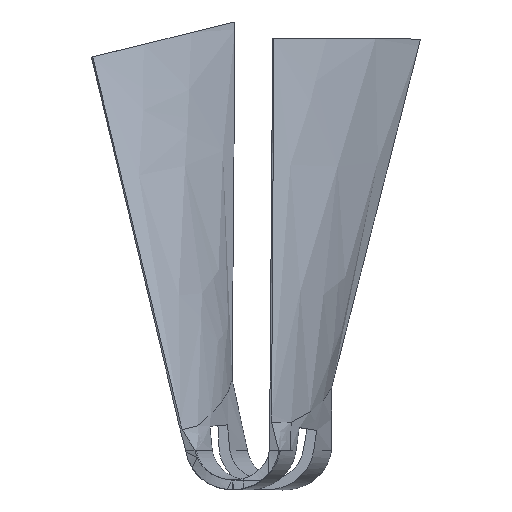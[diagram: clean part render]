
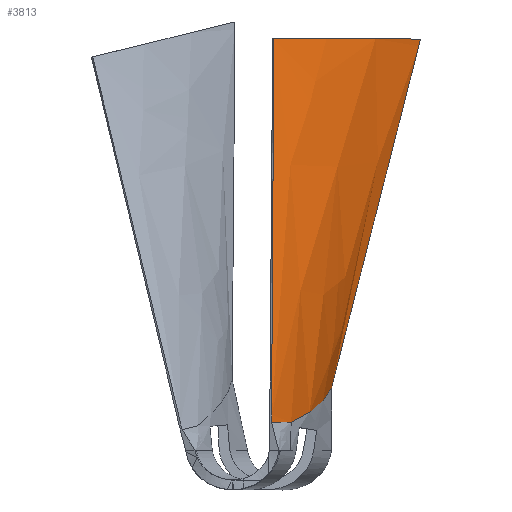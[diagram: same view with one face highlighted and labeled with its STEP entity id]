
A CAD part, top view. The second image highlights one B-rep face of the part: STEP entity #3813.
In plain terms, the highlighted free-form (B-spline) face has degree [3, 3] with [5, 4] control points.
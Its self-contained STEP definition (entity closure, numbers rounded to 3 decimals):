
#1255=CARTESIAN_POINT('Vertex',(21.785,107.16,-25.419)) ;
#1259=CARTESIAN_POINT('Control Point',(11.136,98.006,4.493)) ;
#1260=CARTESIAN_POINT('Control Point',(12.812,98.736,1.72)) ;
#1261=CARTESIAN_POINT('Control Point',(14.322,99.524,-1.135)) ;
#1262=CARTESIAN_POINT('Control Point',(15.674,100.365,-4.057)) ;
#1263=CARTESIAN_POINT('Control Point',(18.073,102.139,-10.011)) ;
#1264=CARTESIAN_POINT('Control Point',(19.885,104.07,-16.116)) ;
#1265=CARTESIAN_POINT('Control Point',(20.65,105.071,-19.2)) ;
#1266=CARTESIAN_POINT('Control Point',(21.281,106.102,-22.304)) ;
#1267=CARTESIAN_POINT('Control Point',(21.785,107.16,-25.419)) ;
#1268=CARTESIAN_POINT('Vertex',(11.123,98.,4.513)) ;
#1722=CARTESIAN_POINT('Vertex',(5.959,98.,11.839)) ;
#1746=CARTESIAN_POINT('Control Point',(5.959,98.,11.839)) ;
#1747=CARTESIAN_POINT('Control Point',(7.102,98.,10.455)) ;
#1748=CARTESIAN_POINT('Control Point',(8.191,98.,9.028)) ;
#1749=CARTESIAN_POINT('Control Point',(9.226,98.,7.56)) ;
#1750=CARTESIAN_POINT('Control Point',(10.204,98.,6.054)) ;
#1751=CARTESIAN_POINT('Control Point',(11.123,98.,4.513)) ;
#3733=CARTESIAN_POINT('Control Point',(45.201,199.002,-21.416)) ;
#3734=CARTESIAN_POINT('Control Point',(36.617,165.334,-22.884)) ;
#3735=CARTESIAN_POINT('Control Point',(28.033,131.667,-24.351)) ;
#3736=CARTESIAN_POINT('Control Point',(19.449,98.,-25.818)) ;
#3737=CARTESIAN_POINT('Control Point',(39.566,199.002,-15.691)) ;
#3738=CARTESIAN_POINT('Control Point',(32.866,165.334,-16.799)) ;
#3739=CARTESIAN_POINT('Control Point',(26.166,131.667,-17.908)) ;
#3740=CARTESIAN_POINT('Control Point',(19.466,98.,-19.016)) ;
#3741=CARTESIAN_POINT('Control Point',(27.384,199.002,-5.14)) ;
#3742=CARTESIAN_POINT('Control Point',(23.962,165.334,-5.229)) ;
#3743=CARTESIAN_POINT('Control Point',(20.541,131.667,-5.318)) ;
#3744=CARTESIAN_POINT('Control Point',(17.119,98.,-5.408)) ;
#3745=CARTESIAN_POINT('Control Point',(13.702,199.002,3.377)) ;
#3746=CARTESIAN_POINT('Control Point',(12.565,165.334,4.45)) ;
#3747=CARTESIAN_POINT('Control Point',(11.428,131.667,5.522)) ;
#3748=CARTESIAN_POINT('Control Point',(10.291,98.,6.595)) ;
#3749=CARTESIAN_POINT('Control Point',(6.567,199.002,7.068)) ;
#3750=CARTESIAN_POINT('Control Point',(6.364,165.334,8.658)) ;
#3751=CARTESIAN_POINT('Control Point',(6.162,131.667,10.248)) ;
#3752=CARTESIAN_POINT('Control Point',(5.959,98.,11.839)) ;
#3754=CARTESIAN_POINT('Control Point',(44.718,197.106,-21.499)) ;
#3755=CARTESIAN_POINT('Control Point',(40.131,179.117,-22.283)) ;
#3756=CARTESIAN_POINT('Control Point',(35.545,161.127,-23.067)) ;
#3757=CARTESIAN_POINT('Control Point',(30.958,143.138,-23.851)) ;
#3758=CARTESIAN_POINT('Control Point',(26.372,125.149,-24.635)) ;
#3759=CARTESIAN_POINT('Control Point',(21.785,107.16,-25.419)) ;
#3760=CARTESIAN_POINT('Vertex',(44.719,197.106,-21.499)) ;
#3764=CARTESIAN_POINT('Control Point',(45.201,199.002,-21.416)) ;
#3765=CARTESIAN_POINT('Control Point',(45.105,198.623,-21.433)) ;
#3766=CARTESIAN_POINT('Control Point',(45.008,198.243,-21.45)) ;
#3767=CARTESIAN_POINT('Control Point',(44.911,197.864,-21.466)) ;
#3768=CARTESIAN_POINT('Control Point',(44.815,197.485,-21.483)) ;
#3769=CARTESIAN_POINT('Control Point',(44.718,197.106,-21.499)) ;
#3770=CARTESIAN_POINT('Vertex',(45.205,199.001,-21.42)) ;
#3774=CARTESIAN_POINT('Control Point',(45.201,199.002,-21.416)) ;
#3775=CARTESIAN_POINT('Control Point',(41.82,199.002,-17.981)) ;
#3776=CARTESIAN_POINT('Control Point',(38.302,199.002,-14.681)) ;
#3777=CARTESIAN_POINT('Control Point',(34.656,199.002,-11.521)) ;
#3778=CARTESIAN_POINT('Control Point',(27.123,199.002,-5.497)) ;
#3779=CARTESIAN_POINT('Control Point',(19.141,199.002,-0.083)) ;
#3780=CARTESIAN_POINT('Control Point',(15.047,199.002,2.465)) ;
#3781=CARTESIAN_POINT('Control Point',(10.856,199.002,4.849)) ;
#3782=CARTESIAN_POINT('Control Point',(6.576,199.002,7.062)) ;
#3783=CARTESIAN_POINT('Vertex',(6.575,199.001,7.061)) ;
#3787=CARTESIAN_POINT('Control Point',(6.567,199.002,7.068)) ;
#3788=CARTESIAN_POINT('Control Point',(6.447,179.18,8.004)) ;
#3789=CARTESIAN_POINT('Control Point',(6.328,159.359,8.94)) ;
#3790=CARTESIAN_POINT('Control Point',(6.209,139.537,9.877)) ;
#3791=CARTESIAN_POINT('Control Point',(6.09,119.715,10.813)) ;
#3792=CARTESIAN_POINT('Control Point',(5.97,99.894,11.749)) ;
#3793=CARTESIAN_POINT('Vertex',(5.97,99.894,11.75)) ;
#3797=CARTESIAN_POINT('Control Point',(5.97,99.894,11.749)) ;
#3798=CARTESIAN_POINT('Control Point',(5.968,99.515,11.767)) ;
#3799=CARTESIAN_POINT('Control Point',(5.966,99.136,11.785)) ;
#3800=CARTESIAN_POINT('Control Point',(5.964,98.757,11.803)) ;
#3801=CARTESIAN_POINT('Control Point',(5.961,98.379,11.821)) ;
#3802=CARTESIAN_POINT('Control Point',(5.959,98.,11.839)) ;
#3805=ORIENTED_EDGE('',*,*,#1270,.F.) ;
#3806=ORIENTED_EDGE('',*,*,#3762,.T.) ;
#3807=ORIENTED_EDGE('',*,*,#3772,.T.) ;
#3808=ORIENTED_EDGE('',*,*,#3785,.T.) ;
#3809=ORIENTED_EDGE('',*,*,#3795,.T.) ;
#3810=ORIENTED_EDGE('',*,*,#3803,.T.) ;
#3811=ORIENTED_EDGE('',*,*,#1752,.F.) ;
#3813=ADVANCED_FACE('MANIFOLD_SOLID_BREP #370',(#3812),#3732,.T.) ;
#1258=B_SPLINE_CURVE_WITH_KNOTS('',5,(#1259,#1260,#1261,#1262,#1263,#1264,#1265,#1266,#1267),.UNSPECIFIED.,.F.,.U.,(6,3,6),(0.03,16.296,32.592),.UNSPECIFIED.) ;
#1745=B_SPLINE_CURVE_WITH_KNOTS('',5,(#1746,#1747,#1748,#1749,#1750,#1751),.UNSPECIFIED.,.F.,.U.,(6,6),(0.,8.864),.UNSPECIFIED.) ;
#3753=B_SPLINE_CURVE_WITH_KNOTS('',5,(#3754,#3755,#3756,#3757,#3758,#3759),.UNSPECIFIED.,.F.,.U.,(6,6),(1.919,92.952),.UNSPECIFIED.) ;
#3763=B_SPLINE_CURVE_WITH_KNOTS('',5,(#3764,#3765,#3766,#3767,#3768,#3769),.UNSPECIFIED.,.F.,.U.,(6,6),(0.,1.919),.UNSPECIFIED.) ;
#3773=B_SPLINE_CURVE_WITH_KNOTS('',5,(#3774,#3775,#3776,#3777,#3778,#3779,#3780,#3781,#3782),.UNSPECIFIED.,.F.,.U.,(6,3,6),(0.,21.872,43.734),.UNSPECIFIED.) ;
#3786=B_SPLINE_CURVE_WITH_KNOTS('',5,(#3787,#3788,#3789,#3790,#3791,#3792),.UNSPECIFIED.,.F.,.U.,(6,6),(0.,100.305),.UNSPECIFIED.) ;
#3796=B_SPLINE_CURVE_WITH_KNOTS('',5,(#3797,#3798,#3799,#3800,#3801,#3802),.UNSPECIFIED.,.F.,.U.,(6,6),(100.305,102.222),.UNSPECIFIED.) ;
#3732=B_SPLINE_SURFACE_WITH_KNOTS('',3,3,((#3733,#3734,#3735,#3736),(#3737,#3738,#3739,#3740),(#3741,#3742,#3743,#3744),(#3745,#3746,#3747,#3748),(#3749,#3750,#3751,#3752)),.UNSPECIFIED.,.F.,.F.,.U.,(4,1,4),(4,4),(0.,21.872,43.744),(0.,102.222),.UNSPECIFIED.) ;
#1270=EDGE_CURVE('',#1256,#1269,#1258,.F.) ;
#1752=EDGE_CURVE('',#1269,#1723,#1745,.F.) ;
#3762=EDGE_CURVE('',#1256,#3761,#3753,.F.) ;
#3772=EDGE_CURVE('',#3761,#3771,#3763,.F.) ;
#3785=EDGE_CURVE('',#3771,#3784,#3773,.T.) ;
#3795=EDGE_CURVE('',#3784,#3794,#3786,.T.) ;
#3803=EDGE_CURVE('',#3794,#1723,#3796,.T.) ;
#3804=EDGE_LOOP('',(#3805,#3806,#3807,#3808,#3809,#3810,#3811)) ;
#3812=FACE_OUTER_BOUND('',#3804,.T.) ;
#1256=VERTEX_POINT('',#1255) ;
#1269=VERTEX_POINT('',#1268) ;
#1723=VERTEX_POINT('',#1722) ;
#3761=VERTEX_POINT('',#3760) ;
#3771=VERTEX_POINT('',#3770) ;
#3784=VERTEX_POINT('',#3783) ;
#3794=VERTEX_POINT('',#3793) ;
